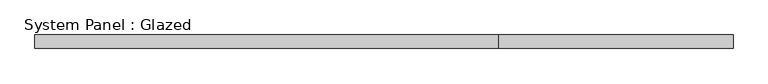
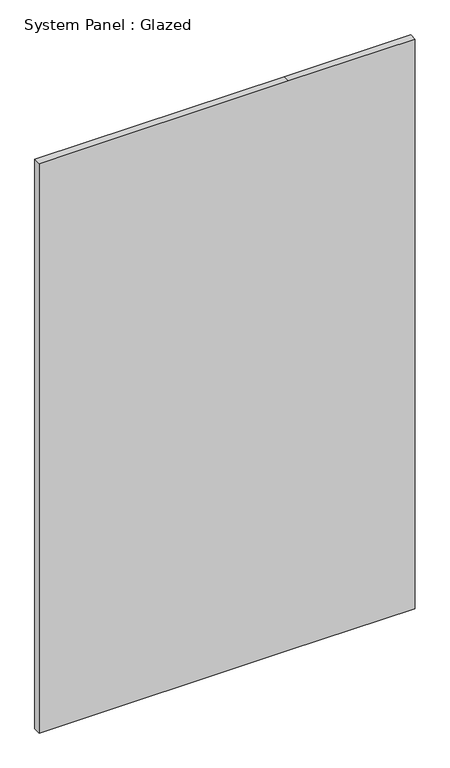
"""IFC4 building model written with IfcOpenShell, lengths in millimetres: plate geometry, System Panel : Glazed."""

from ifc_helpers import new_model, si_unit, frame, origin, place, context, project, spatial, polyline, outline, extrude, source, transform, mapped, element, save


def system_panel_glazed_77750b0d(model_context):
    return source(origin(), model_context, "Body", "SweptSolid", [
        extrude(outline(polyline([(0.0, -643.17875), (0.0, 210.97875), (0.0, 643.17875), (2058.6, 643.17875), (2058.6, 210.97875), (2058.6, -643.17875), (0.0, -643.17875)])), frame((0.0, 24.5, 0.0), z_axis=(0.0, 1.0, 0.0), x_axis=(0.0, 0.0, 1.0)), (0.0, 0.0, 1.0), 25.0),
    ])


if __name__ == "__main__":
    model = new_model("IFC4")
    model_context = context("Model", 3, world=origin())
    ifc_project = project(units=[si_unit("LENGTHUNIT", "METRE", prefix="MILLI")], contexts=[model_context])
    site = spatial("IfcSite", under=ifc_project)
    building = spatial("IfcBuilding", under=site)
    placement = place(None, origin())
    system_panel_glazed_shape = system_panel_glazed_77750b0d(model_context)
    element("IfcPlate", 1, ObjectType="System Panel : Glazed", at=placement, inside=building, context=model_context, shape_type="MappedRepresentation", body=[
        mapped(system_panel_glazed_shape, transform((0.0, 0.0, 0.0), x_axis=(1.0, 0.0, 0.0), y_axis=(0.0, 1.0, 0.0), z_axis=(0.0, 0.0, 1.0))),
    ])
    save(model, "model.ifc")
